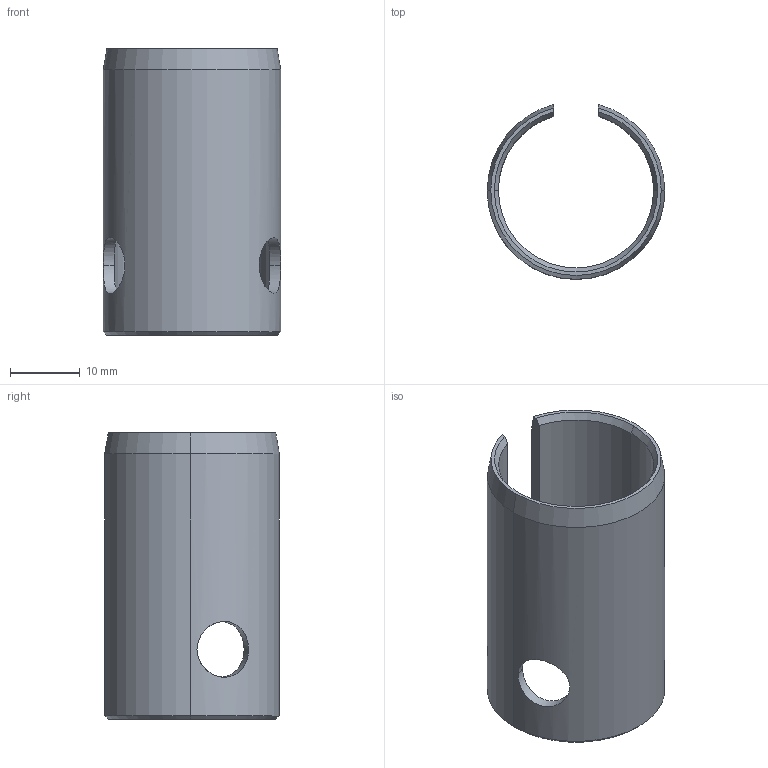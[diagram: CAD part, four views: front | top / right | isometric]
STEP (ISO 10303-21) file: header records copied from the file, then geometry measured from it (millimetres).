
FILE_DESCRIPTION (( 'STEP AP203' ), '1' );
FILE_NAME ('KBSH045P14.STEP', '2023-08-01T05:18:16', ( '' ), ( '' ), 'SwSTEP 2.0', 'SolidWorks 2012', '' );
FILE_SCHEMA (( 'CONFIG_CONTROL_DESIGN' ));
Length unit declared in the file: millimetre
Products named in the file (1): KBSH045P14
Bounding box: 25.4 x 25 x 41 mm (x, y, z)
Volume: 4188.2 mm3; surface area: 5723.5 mm2
Topology: 1 solids, 1 shells, 26 faces, 64 edges, 40 vertices
Faces by surface type: cone 12, cylinder 10, plane 4
Entity records: 1109 total; most frequent: CARTESIAN_POINT 419, ORIENTED_EDGE 128, DIRECTION 126, EDGE_CURVE 64, AXIS2_PLACEMENT_3D 51, VERTEX_POINT 40, EDGE_LOOP 30, FACE_OUTER_BOUND 26
